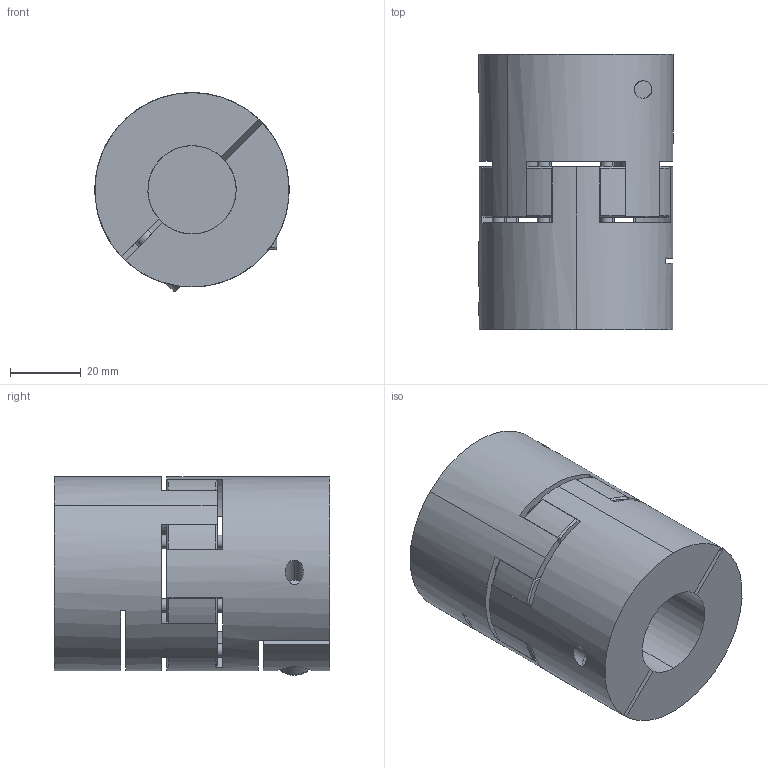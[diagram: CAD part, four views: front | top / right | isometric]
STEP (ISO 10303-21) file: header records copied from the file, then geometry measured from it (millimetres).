
FILE_DESCRIPTION (( 'STEP AP214' ), '1' );
FILE_NAME ('2.5011 Sakarakytkin MM2 55 D15_25.STEP', '2024-05-31T11:42:26', ( '' ), ( '' ), 'SwSTEP 2.0', 'SolidWorks 2024', '' );
FILE_SCHEMA (( 'AUTOMOTIVE_DESIGN' ));
Length unit declared in the file: millimetre
Products named in the file (1): 2.5011 Sakarakytkin MM2 55 D15_25
Bounding box: 54.99 x 78 x 56.24 mm (x, y, z)
Volume: 148682.1 mm3; surface area: 44053.2 mm2
Topology: 5 solids, 5 shells, 274 faces, 687 edges, 435 vertices
Faces by surface type: cylinder 126, plane 78, cone 62, torus 8
Entity records: 11102 total; most frequent: CARTESIAN_POINT 2250, DIRECTION 1514, ORIENTED_EDGE 1366, EDGE_CURVE 683, AXIS2_PLACEMENT_3D 638, VERTEX_POINT 435, CIRCLE 363, EDGE_LOOP 302
